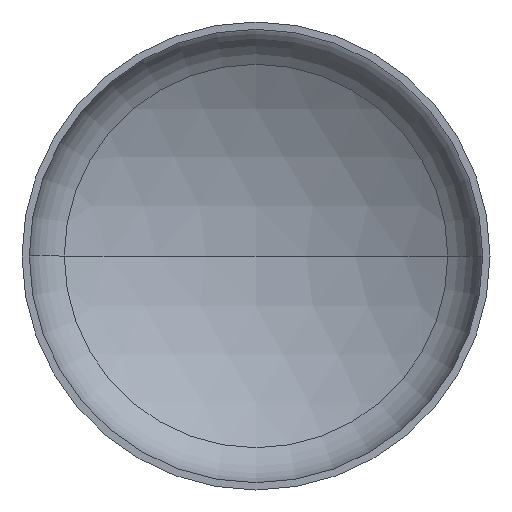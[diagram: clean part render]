
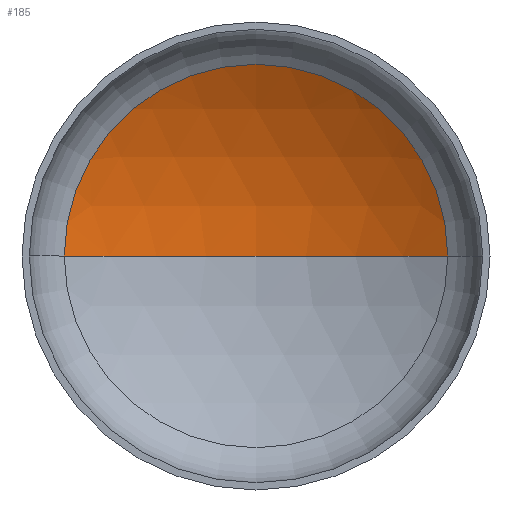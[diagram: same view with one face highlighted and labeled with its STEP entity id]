
A CAD part, front view. The second image highlights one B-rep face of the part: STEP entity #185.
In plain terms, the highlighted spherical face has radius 1280 mm.
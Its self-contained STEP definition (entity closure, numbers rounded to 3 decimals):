
#17 = AXIS2_PLACEMENT_3D ( 'NONE', #322, #180, #343 ) ;
#18 = AXIS2_PLACEMENT_3D ( 'NONE', #364, #231, #389 ) ;
#37 = CIRCLE ( 'NONE', #18, 1280. ) ;
#40 = AXIS2_PLACEMENT_3D ( 'NONE', #173, #314, #384 ) ;
#45 = AXIS2_PLACEMENT_3D ( 'NONE', #203, #358, #225 ) ;
#51 = VERTEX_POINT ( 'NONE', #239 ) ;
#61 = CARTESIAN_POINT ( 'NONE',  ( 655.459, 285.44, 0. ) ) ;
#97 = VERTEX_POINT ( 'NONE', #198 ) ;
#114 = ORIENTED_EDGE ( 'NONE', *, *, #344, .T. ) ;
#133 = EDGE_LOOP ( 'NONE', ( #256, #114, #307 ) ) ;
#148 = VERTEX_POINT ( 'NONE', #61 ) ;
#169 = EDGE_CURVE ( 'NONE', #148, #51, #219, .T. ) ;
#173 = CARTESIAN_POINT ( 'NONE',  ( 0., -814.002, 0. ) ) ;
#180 = DIRECTION ( 'NONE',  ( 0., 0., 1. ) ) ;
#185 = ADVANCED_FACE ( 'NONE', ( #333 ), #275, .F. ) ;
#198 = CARTESIAN_POINT ( 'NONE',  ( 0., 465.998, 0. ) ) ;
#203 = CARTESIAN_POINT ( 'NONE',  ( 0., 285.44, 0. ) ) ;
#219 = CIRCLE ( 'NONE', #45, 655.459 ) ;
#225 = DIRECTION ( 'NONE',  ( 1., 0., 0. ) ) ;
#231 = DIRECTION ( 'NONE',  ( 0., 0., -1. ) ) ;
#239 = CARTESIAN_POINT ( 'NONE',  ( -655.459, 285.44, 0. ) ) ;
#256 = ORIENTED_EDGE ( 'NONE', *, *, #356, .F. ) ;
#275 = SPHERICAL_SURFACE ( 'NONE', #40, 1280. ) ;
#307 = ORIENTED_EDGE ( 'NONE', *, *, #169, .T. ) ;
#314 = DIRECTION ( 'NONE',  ( 0., 0., -1. ) ) ;
#322 = CARTESIAN_POINT ( 'NONE',  ( 0., -814.002, 0. ) ) ;
#333 = FACE_OUTER_BOUND ( 'NONE', #133, .T. ) ;
#343 = DIRECTION ( 'NONE',  ( 1., 0., 0. ) ) ;
#344 = EDGE_CURVE ( 'NONE', #97, #148, #37, .T. ) ;
#356 = EDGE_CURVE ( 'NONE', #97, #51, #357, .T. ) ;
#357 = CIRCLE ( 'NONE', #17, 1280. ) ;
#358 = DIRECTION ( 'NONE',  ( 0., -1., 0. ) ) ;
#364 = CARTESIAN_POINT ( 'NONE',  ( 0., -814.002, 0. ) ) ;
#384 = DIRECTION ( 'NONE',  ( -1., 0., 0. ) ) ;
#389 = DIRECTION ( 'NONE',  ( -1., 0., 0. ) ) ;
